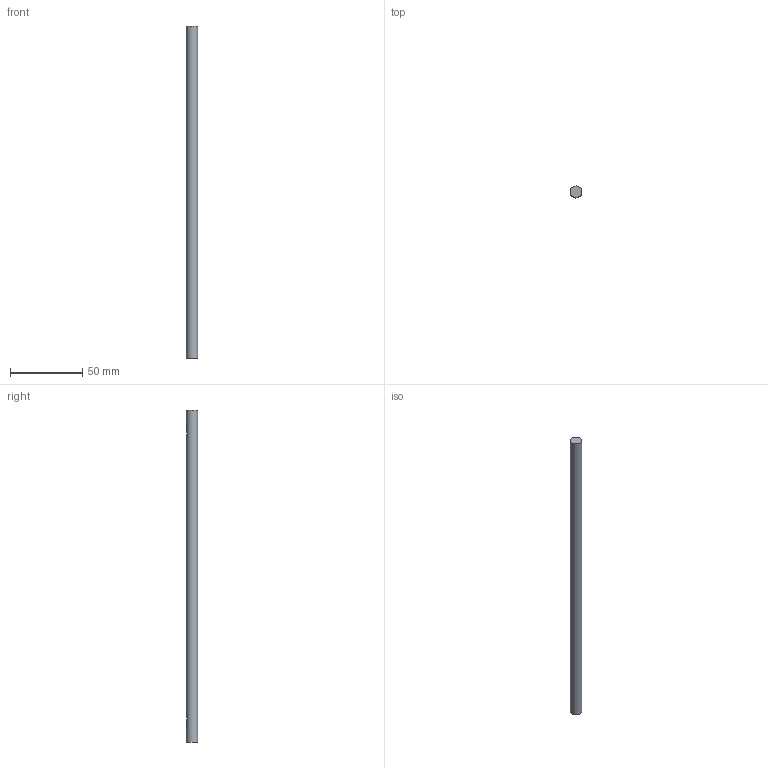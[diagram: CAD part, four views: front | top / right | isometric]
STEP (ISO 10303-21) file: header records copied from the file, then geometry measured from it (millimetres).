
FILE_DESCRIPTION(('Open CASCADE Model'),'2;1');
FILE_NAME('Open CASCADE Shape Model','2026-10-15T02:45:44',('Author'),( 'Open CASCADE'),'Open CASCADE STEP processor 7.9','Open CASCADE 7.9' ,'Unknown');
FILE_SCHEMA(('AUTOMOTIVE_DESIGN { 1 0 10303 214 1 1 1 1 }'));
Length unit declared in the file: millimetre
Products named in the file (1): Open CASCADE STEP translator 7.9 8
Bounding box: 8 x 8 x 230 mm (x, y, z)
Volume: 11534.9 mm3; surface area: 5882.9 mm2
Topology: 1 solids, 1 shells, 9 faces, 15 edges, 10 vertices
Faces by surface type: plane 8, cylinder 1
Full cylindrical faces by diameter (mm): 8 x1
Entity records: 424 total; most frequent: CARTESIAN_POINT 97, DIRECTION 59, ORIENTED_EDGE 30, PCURVE 30, DEFINITIONAL_REPRESENTATION 30, LINE 25, VECTOR 25, AXIS2_PLACEMENT_3D 16
